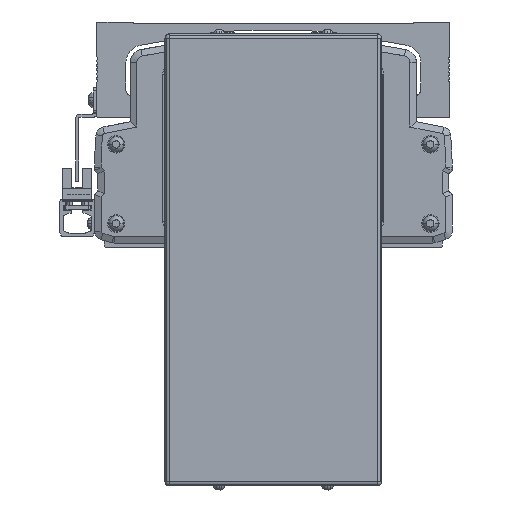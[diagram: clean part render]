
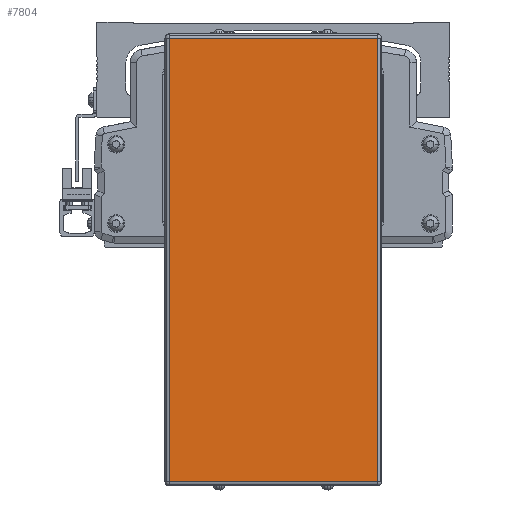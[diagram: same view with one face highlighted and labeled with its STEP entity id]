
A CAD part, front view. The second image highlights one B-rep face of the part: STEP entity #7804.
In plain terms, the highlighted planar face has unit normal (0, -1, 0).
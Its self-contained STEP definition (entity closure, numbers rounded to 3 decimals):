
#7804=ADVANCED_FACE('',(#15737),#15738,.T.);
#15737=FACE_OUTER_BOUND('',#26060,.T.);
#15738=PLANE('',#26061);
#26060=EDGE_LOOP('',(#48617,#48618,#48619,#48620));
#26061=AXIS2_PLACEMENT_3D('',#48621,#48622,#48623);
#48617=ORIENTED_EDGE('',*,*,#56858,.F.);
#48618=ORIENTED_EDGE('',*,*,#56484,.F.);
#48619=ORIENTED_EDGE('',*,*,#52987,.F.);
#48620=ORIENTED_EDGE('',*,*,#56935,.F.);
#48621=CARTESIAN_POINT('',(-600.,227.222,-57.8));
#48622=DIRECTION('',(0.,-1.0,0.));
#48623=DIRECTION('',(0.,0.,-1.0));
#52987=EDGE_CURVE('',#64440,#64442,#64443,.T.);
#56484=EDGE_CURVE('',#64442,#69484,#69604,.T.);
#56858=EDGE_CURVE('',#69484,#68443,#70085,.T.);
#56935=EDGE_CURVE('',#68443,#64440,#70193,.T.);
#64440=VERTEX_POINT('',#80602);
#64442=VERTEX_POINT('',#80604);
#64443=LINE('',#80605,#80606);
#68443=VERTEX_POINT('',#86410);
#69484=VERTEX_POINT('',#87941);
#69604=LINE('',#88100,#88101);
#70085=LINE('',#88760,#88761);
#70193=LINE('',#88895,#88896);
#80602=CARTESIAN_POINT('',(-552.,227.222,-160.1));
#80604=CARTESIAN_POINT('',(-648.,227.222,-160.1));
#80605=CARTESIAN_POINT('',(-600.,227.222,-160.1));
#80606=VECTOR('',#95955,10.0);
#86410=CARTESIAN_POINT('',(-552.,227.222,44.5));
#87941=CARTESIAN_POINT('',(-648.,227.222,44.5));
#88100=CARTESIAN_POINT('',(-648.,227.222,-57.8));
#88101=VECTOR('',#100161,10.0);
#88760=CARTESIAN_POINT('',(-600.,227.222,44.5));
#88761=VECTOR('',#100597,10.0);
#88895=CARTESIAN_POINT('',(-552.,227.222,-57.8));
#88896=VECTOR('',#100747,10.0);
#95955=DIRECTION('',(-1.0,0.,0.));
#100161=DIRECTION('',(0.,0.,1.0));
#100597=DIRECTION('',(1.0,0.,0.));
#100747=DIRECTION('',(0.,0.,-1.0));
